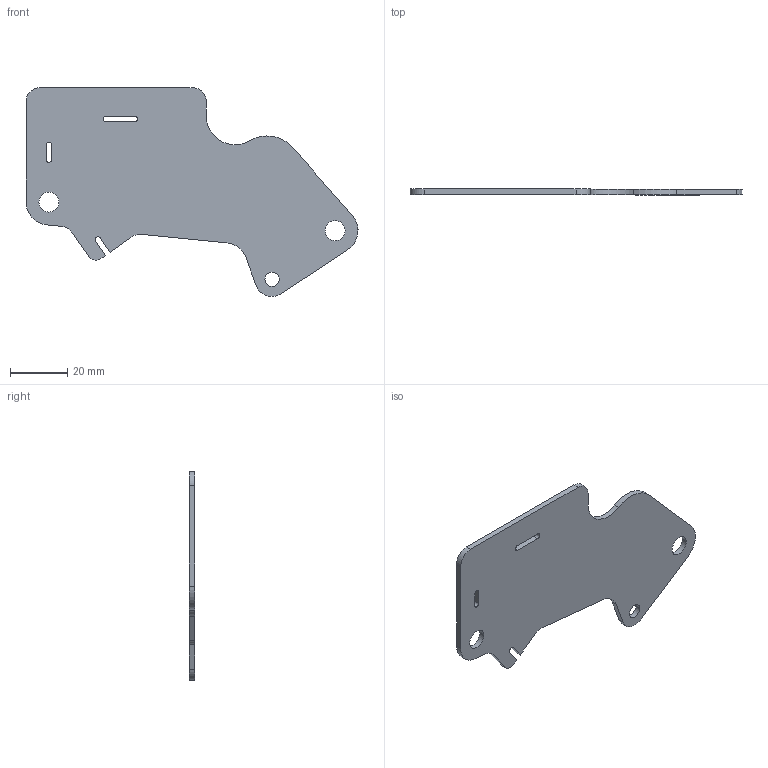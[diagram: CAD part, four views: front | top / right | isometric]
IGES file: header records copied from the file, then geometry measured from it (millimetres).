
Start section: START RECORD GO HERE.
Global section: file name: FR_11001_4 (Frame Throttle).igs; native system: IBM CATIA IGES - CATIA Version 5 Release 19 ; preprocessor: CATIA Version 5 Release 19 ; author: jacqu; organization: ASUS-TUF-JACQUE; date: 20200226.091740; units: millimetre
Bounding box: 115.99 x 2 x 72.98 mm (x, y, z)
Surface area: 11170.7 mm2 (no closed solid volume)
Topology: 0 solids, 0 shells, 41 faces, 234 edges, 234 vertices
Faces by surface type: revolution 22, plane 19
